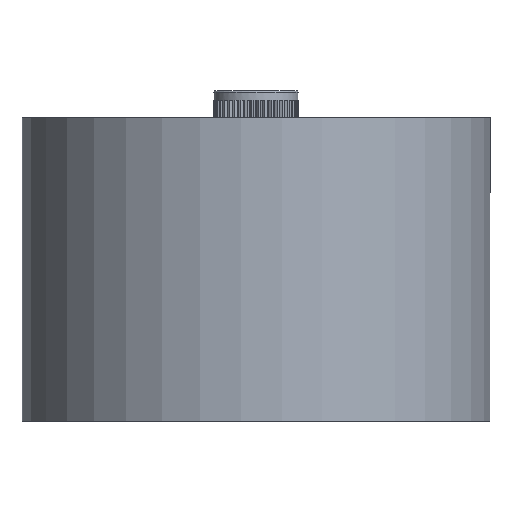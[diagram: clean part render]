
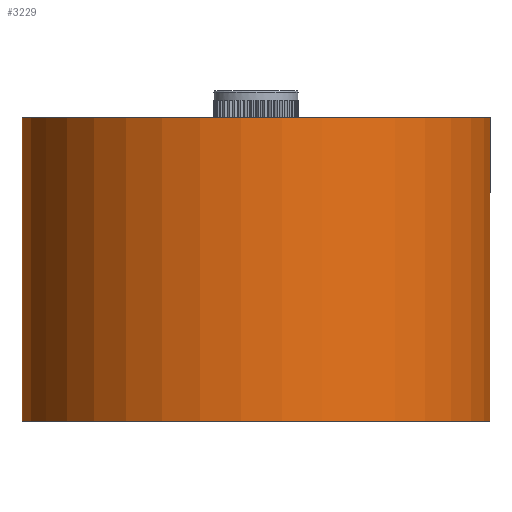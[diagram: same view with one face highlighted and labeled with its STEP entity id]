
A CAD part, front view. The second image highlights one B-rep face of the part: STEP entity #3229.
In plain terms, the highlighted cylindrical face has radius 22 mm (diameter 44 mm), a full revolution.
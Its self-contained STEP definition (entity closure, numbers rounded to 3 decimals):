
#2368=CARTESIAN_POINT('',(12.215,18.297,21.856));
#2369=VERTEX_POINT('',#2368);
#2370=CARTESIAN_POINT('',(0.,0.,21.856));
#2371=DIRECTION('',(0.0,0.0,-1.0));
#2372=DIRECTION('',(-0.555,-0.832,0.0));
#2373=AXIS2_PLACEMENT_3D('',#2370,#2371,#2372);
#2374=CIRCLE('',#2373,22.0);
#2375=EDGE_CURVE('',#2369,#2369,#2374,.F.);
#3210=CARTESIAN_POINT('',(0.,0.,-6.604));
#3211=DIRECTION('',(0.0,0.0,1.0));
#3212=DIRECTION('',(-0.555,-0.832,0.0));
#3213=AXIS2_PLACEMENT_3D('',#3210,#3211,#3212);
#3214=CYLINDRICAL_SURFACE('',#3213,22.0);
#3215=ORIENTED_EDGE('',*,*,#2375,.F.);
#3216=EDGE_LOOP('',(#3215));
#3217=FACE_OUTER_BOUND('',#3216,.T.);
#3218=CARTESIAN_POINT('',(12.215,18.297,-6.604));
#3219=VERTEX_POINT('',#3218);
#3220=CARTESIAN_POINT('',(0.,0.,-6.604));
#3221=DIRECTION('',(0.0,0.0,1.0));
#3222=DIRECTION('',(-0.555,-0.832,0.0));
#3223=AXIS2_PLACEMENT_3D('',#3220,#3221,#3222);
#3224=CIRCLE('',#3223,22.0);
#3225=EDGE_CURVE('',#3219,#3219,#3224,.F.);
#3226=ORIENTED_EDGE('',*,*,#3225,.F.);
#3227=EDGE_LOOP('',(#3226));
#3228=FACE_BOUND('',#3227,.T.);
#3229=ADVANCED_FACE('',(#3217,#3228),#3214,.T.);
